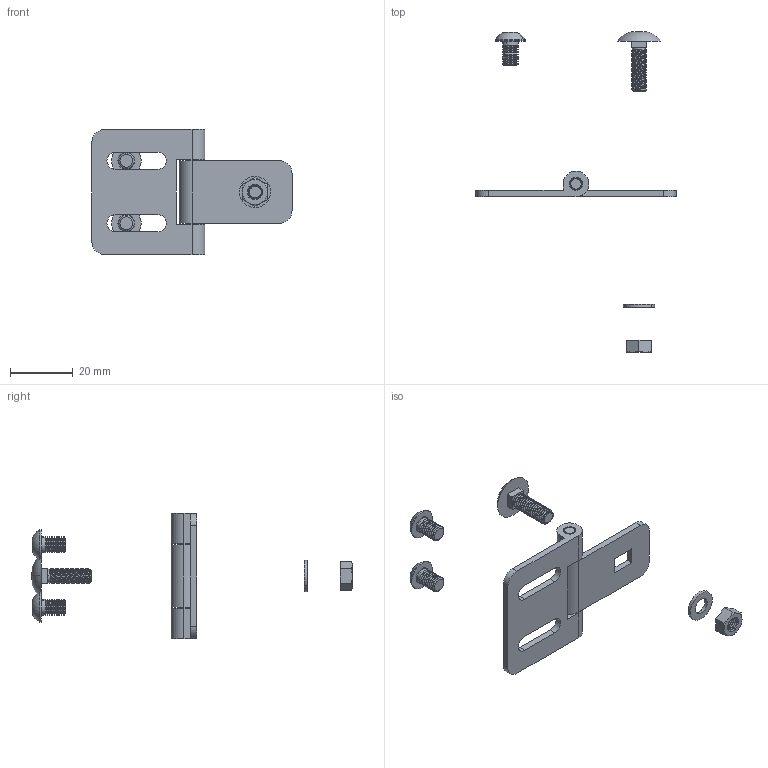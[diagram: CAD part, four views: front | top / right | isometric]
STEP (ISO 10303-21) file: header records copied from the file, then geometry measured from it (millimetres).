
FILE_DESCRIPTION (( 'STEP AP203' ), '1' );
FILE_NAME ('999648_Scharnier St leicht.step', '2019-11-04T12:13:00', ( '' ), ( '' ), 'SwSTEP 2.0', 'SolidWorks 2017', '' );
FILE_SCHEMA (( 'CONFIG_CONTROL_DESIGN' ));
Length unit declared in the file: millimetre
Products named in the file (8): Scharnierlappen 1; Scharnierlappen 2; Achse, St, verzinkt; Washer DIN 125 - A 5.3_Washer DIN 125 - A 5.3; Schraube, Flachrund, DIN 603-M5x16, St, schwarz; 370058 Schraube, Linsenkopf, ISO 7380, M5x  8, 10.9 verzinkt; 999648_Scharnier St leicht; Sechskantmutter DIN 934-M5, St, schwarz_Hexagon Nut ISO 4033 - M5 - D - S
Assembly tree (8 placements, depth 2):
  999648_Scharnier St leicht
    Scharnierlappen 1
    Scharnierlappen 2
    Schraube, Flachrund, DIN 603-M5x16, St, schwarz
    Achse, St, verzinkt
    Washer DIN 125 - A 5.3_Washer DIN 125 - A 5.3
    Sechskantmutter DIN 934-M5, St, schwarz_Hexagon Nut ISO 4033 - M5 - D - S
    370058 Schraube, Linsenkopf, ISO 7380, M5x  8, 10.9 verzinkt  x2
Bounding box: 64 x 102.59 x 40 mm (x, y, z)
Volume: 6457.2 mm3; surface area: 7607.2 mm2
Topology: 8 solids, 8 shells, 317 faces, 787 edges, 488 vertices
Faces by surface type: cone 113, cylinder 111, plane 76, torus 10, sphere 4, bspline 3
Entity records: 10954 total; most frequent: CARTESIAN_POINT 4443, DIRECTION 1229, ORIENTED_EDGE 1182, EDGE_CURVE 591, AXIS2_PLACEMENT_3D 479, VERTEX_POINT 369, LINE 271, VECTOR 271
